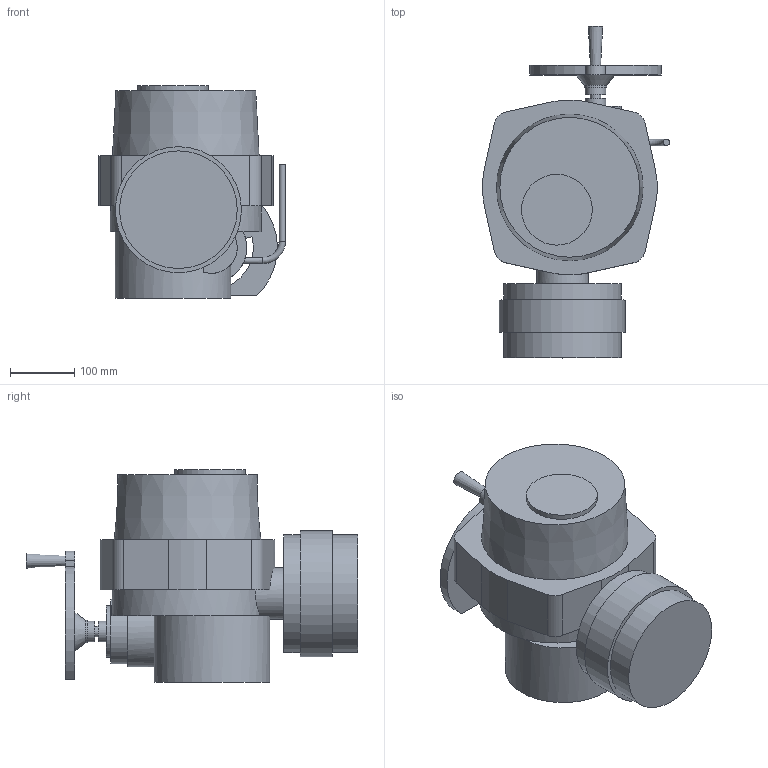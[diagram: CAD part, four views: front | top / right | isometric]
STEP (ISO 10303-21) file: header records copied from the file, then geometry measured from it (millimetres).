
FILE_DESCRIPTION(('STEP AP203'), '1');
FILE_NAME('Ýëåêòðîïðèâîä QT.A 120 ñ ïîçèöèîíåðîì', '', ('UNSPECIFIED'), ('UNSPECIFIED'), 'ASCON STEP Converter 1.6', 'ASCON Math Kernel', '');
FILE_SCHEMA(('CONFIG_CONTROL_DESIGN'));
Length unit declared in the file: millimetre
Bounding box: 290.64 x 516 x 331 mm (x, y, z)
Volume: 17868819 mm3; surface area: 597125.8 mm2
Topology: 1 solids, 1 shells, 99 faces, 220 edges, 145 vertices
Faces by surface type: plane 52, cylinder 43, cone 3, torus 1
Full cylindrical faces by diameter (mm): 10 x6, 14 x4, 16 x1, 32 x2, 35 x1, 40 x1, 80 x2, 100 x1, 110 x1, 180 x1, 183 x2, 196 x1
Entity records: 4191 total; most frequent: CARTESIAN_POINT 1173, DIRECTION 479, ORIENTED_EDGE 386, AXIS2_PLACEMENT_3D 198, EDGE_CURVE 193, EDGE_LOOP 154, VERTEX_POINT 145, FACE_BOUND 103
